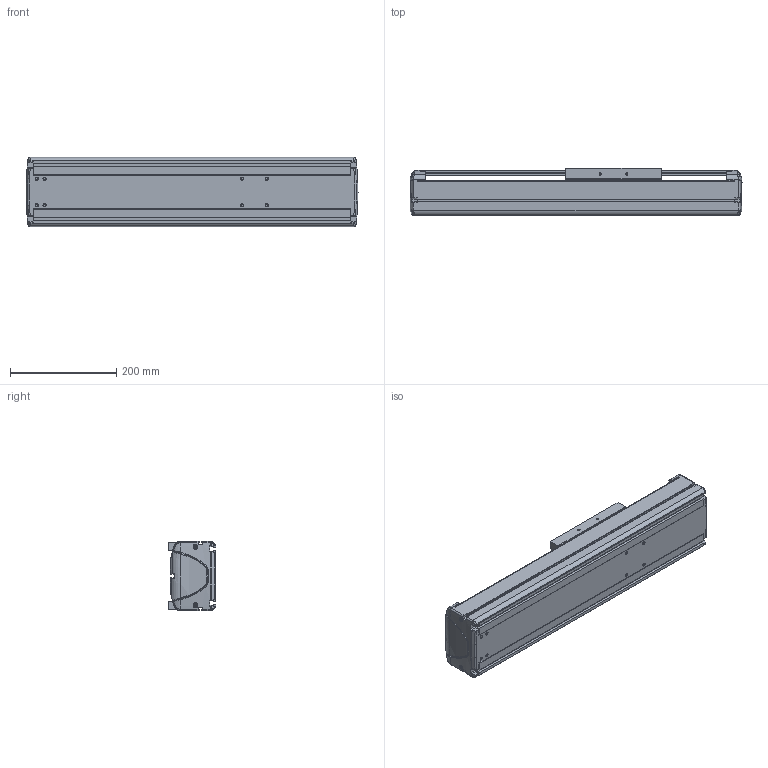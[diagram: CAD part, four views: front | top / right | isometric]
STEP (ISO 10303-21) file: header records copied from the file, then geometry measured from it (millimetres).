
FILE_DESCRIPTION((''),'2;1');
FILE_NAME('BE30E-ST-L_B-25_IGS_PRT','2017-06-17T',(' '),(''),'PRO/ENGINEER BY PARAMETRIC TECHNOLOGY CORPORATION, 2015030','PRO/ENGINEER BY PARAMETRIC TECHNOLOGY CORPORATION, 2015030','');
FILE_SCHEMA(('CONFIG_CONTROL_DESIGN'));
Length unit declared in the file: millimetre
Products named in the file (1): BE30E-ST-L_B-25_IGS_PRT
Bounding box: 625 x 89.8 x 130 mm (x, y, z)
Volume: 2260199.7 mm3; surface area: 809232.6 mm2
Topology: 2 solids, 68 shells, 1305 faces, 3485 edges, 2266 vertices
Faces by surface type: plane 601, cylinder 544, bspline 60, torus 46, cone 30, sphere 24
Entity records: 43726 total; most frequent: CARTESIAN_POINT 11140, DIRECTION 6696, ORIENTED_EDGE 6667, EDGE_CURVE 3465, AXIS2_PLACEMENT_3D 2388, VERTEX_POINT 2266, VECTOR 1920, LINE 1920
